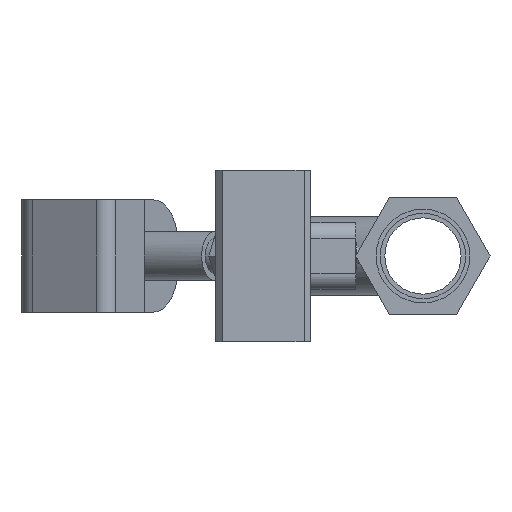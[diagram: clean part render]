
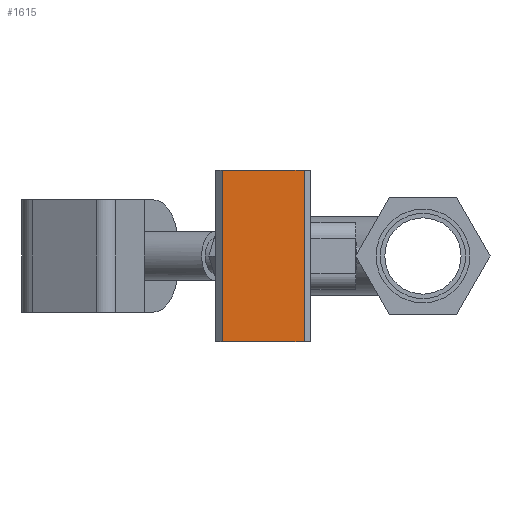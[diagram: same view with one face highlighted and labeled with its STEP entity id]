
A CAD part, left-side view. The second image highlights one B-rep face of the part: STEP entity #1615.
In plain terms, the highlighted planar face has unit normal (-1, 0, 0).
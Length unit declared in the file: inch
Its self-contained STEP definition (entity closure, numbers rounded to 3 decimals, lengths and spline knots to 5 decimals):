
#119=PLANE('',#1766);
#190=FACE_OUTER_BOUND('',#287,.T.);
#287=EDGE_LOOP('',(#1302,#1303,#1304,#1305));
#429=LINE('',#2624,#562);
#435=LINE('',#2635,#568);
#436=LINE('',#2638,#569);
#437=LINE('',#2639,#570);
#562=VECTOR('',#2143,0.3937);
#568=VECTOR('',#2151,0.3937);
#569=VECTOR('',#2154,0.3937);
#570=VECTOR('',#2155,0.3937);
#770=VERTEX_POINT('',#2621);
#771=VERTEX_POINT('',#2623);
#775=VERTEX_POINT('',#2633);
#776=VERTEX_POINT('',#2637);
#963=EDGE_CURVE('',#770,#771,#429,.T.);
#969=EDGE_CURVE('',#775,#770,#435,.T.);
#970=EDGE_CURVE('',#776,#775,#436,.T.);
#971=EDGE_CURVE('',#776,#771,#437,.T.);
#1302=ORIENTED_EDGE('',*,*,#969,.F.);
#1303=ORIENTED_EDGE('',*,*,#970,.F.);
#1304=ORIENTED_EDGE('',*,*,#971,.T.);
#1305=ORIENTED_EDGE('',*,*,#963,.F.);
#1615=ADVANCED_FACE('',(#190),#119,.T.);
#1766=AXIS2_PLACEMENT_3D('',#2636,#2152,#2153);
#2143=DIRECTION('',(0.,1.,0.));
#2151=DIRECTION('',(0.,0.,-1.));
#2152=DIRECTION('center_axis',(-1.,0.,0.));
#2153=DIRECTION('ref_axis',(0.,-1.,0.));
#2154=DIRECTION('',(0.,-1.,0.));
#2155=DIRECTION('',(0.,0.,-1.));
#2621=CARTESIAN_POINT('',(-3.9875,2.65,-1.91));
#2623=CARTESIAN_POINT('',(-3.9875,4.475,-1.91));
#2624=CARTESIAN_POINT('',(-3.9875,2.65,-1.91));
#2633=CARTESIAN_POINT('',(-3.9875,2.65,1.91));
#2635=CARTESIAN_POINT('',(-3.9875,2.65,0.));
#2636=CARTESIAN_POINT('Origin',(-3.9875,4.475,0.));
#2637=CARTESIAN_POINT('',(-3.9875,4.475,1.91));
#2638=CARTESIAN_POINT('',(-3.9875,2.65,1.91));
#2639=CARTESIAN_POINT('',(-3.9875,4.475,0.));
